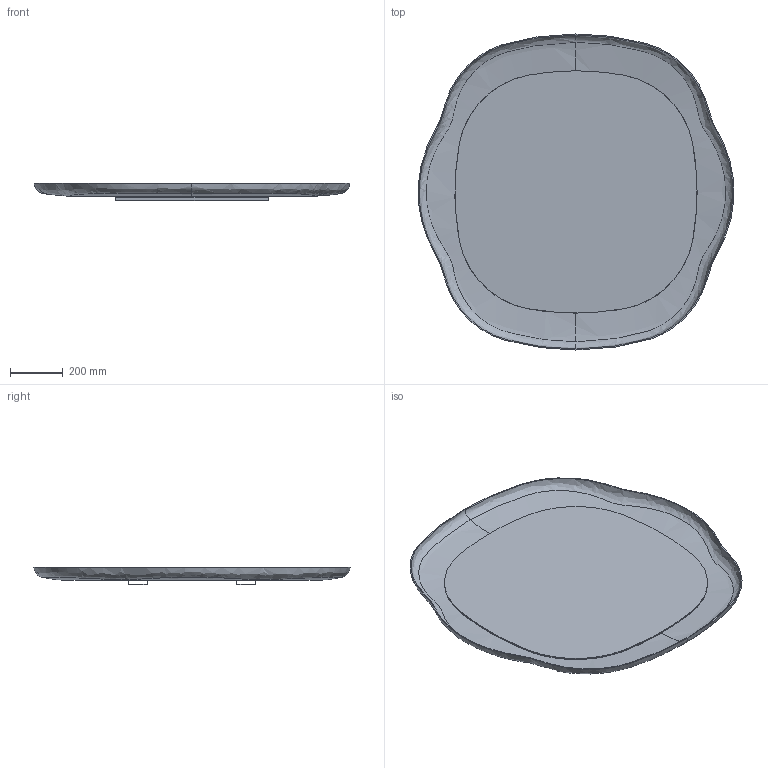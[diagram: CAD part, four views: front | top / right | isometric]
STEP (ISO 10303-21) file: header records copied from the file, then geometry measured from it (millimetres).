
FILE_DESCRIPTION (( 'STEP AP203' ), '1' );
FILE_NAME ('MAT01_Matisse_120x120.STEP', '2024-08-02T09:05:19', ( '' ), ( '' ), 'SwSTEP 2.0', 'SolidWorks 2022', '' );
FILE_SCHEMA (( 'CONFIG_CONTROL_DESIGN' ));
Length unit declared in the file: millimetre
Products named in the file (3): MAT01_A-00-SPECCHIO MATISSE 120x120_SOLO SPECCHIO; MAT01_Matisse_120x120; MAT01_B-00-LAMIERA ANCORAGGIO PIEGATA
Assembly tree (2 placements, depth 2):
  MAT01_Matisse_120x120
    MAT01_A-00-SPECCHIO MATISSE 120x120_SOLO SPECCHIO
    MAT01_B-00-LAMIERA ANCORAGGIO PIEGATA
Bounding box: 1198.69 x 1200 x 66.5 mm (x, y, z)
Volume: 8402505.6 mm3; surface area: 4688232.1 mm2
Topology: 3 solids, 3 shells, 161 faces, 385 edges, 223 vertices
Faces by surface type: plane 99, cylinder 54, bspline 8
Entity records: 13012 total; most frequent: CARTESIAN_POINT 9001, DIRECTION 772, ORIENTED_EDGE 770, EDGE_CURVE 385, LINE 258, VECTOR 258, AXIS2_PLACEMENT_3D 257, VERTEX_POINT 223
